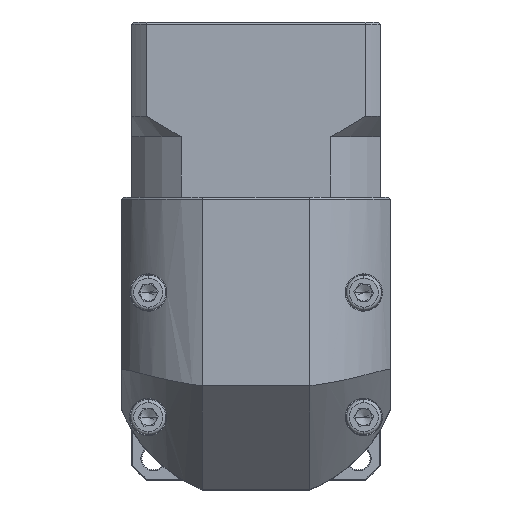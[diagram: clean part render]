
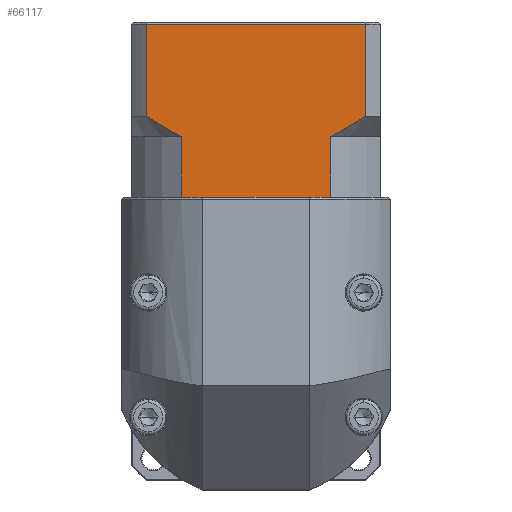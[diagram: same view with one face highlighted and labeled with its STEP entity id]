
A CAD part, top view. The second image highlights one B-rep face of the part: STEP entity #66117.
In plain terms, the highlighted planar face has unit normal (0, 0, 1).
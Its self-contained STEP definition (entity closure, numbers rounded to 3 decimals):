
#869 = PLANE ( 'NONE',  #68390 ) ;
#1030 = CARTESIAN_POINT ( 'NONE',  ( -52.803, 62.514, 82.485 ) ) ;
#2594 = CARTESIAN_POINT ( 'NONE',  ( -45.83, 88.964, 82.485 ) ) ;
#6844 = VERTEX_POINT ( 'NONE', #108643 ) ;
#8548 = B_SPLINE_CURVE_WITH_KNOTS ( 'NONE', 3,
 ( #48030, #56755, #47663, #21805, #30581, #39314 ),
 .UNSPECIFIED., .F., .F.,
 ( 4, 2, 4 ),
 ( 0.052, 0.057, 0.062 ),
 .UNSPECIFIED. ) ;
#8749 = VECTOR ( 'NONE', #44773, 1000. ) ;
#8867 = DIRECTION ( 'NONE',  ( 1., 0., 0. ) ) ;
#9707 = CARTESIAN_POINT ( 'NONE',  ( -47.192, 65.862, 82.485 ) ) ;
#11422 = VECTOR ( 'NONE', #12112, 1000. ) ;
#11756 = DIRECTION ( 'NONE',  ( 0., 0., -1. ) ) ;
#12112 = DIRECTION ( 'NONE',  ( 0., -1., 0. ) ) ;
#12414 = CARTESIAN_POINT ( 'NONE',  ( -102.287, 88.964, 82.485 ) ) ;
#12756 = EDGE_CURVE ( 'NONE', #46889, #20472, #45335, .T. ) ;
#13132 = CARTESIAN_POINT ( 'NONE',  ( -102.287, 47.264, 82.485 ) ) ;
#13189 = EDGE_LOOP ( 'NONE', ( #62023, #28039, #104213, #59118, #18946, #38929, #27675, #76540, #84307, #67186 ) ) ;
#13272 = EDGE_CURVE ( 'NONE', #27603, #69291, #80273, .T. ) ;
#16955 = VECTOR ( 'NONE', #90491, 1000. ) ;
#17314 = CARTESIAN_POINT ( 'NONE',  ( -98.745, 61.764, 82.485 ) ) ;
#18052 = CARTESIAN_POINT ( 'NONE',  ( -54.259, 61.764, 82.485 ) ) ;
#18946 = ORIENTED_EDGE ( 'NONE', *, *, #50042, .F. ) ;
#19033 = DIRECTION ( 'NONE',  ( 0., 1., 0. ) ) ;
#19468 = VECTOR ( 'NONE', #78011, 1000. ) ;
#20472 = VERTEX_POINT ( 'NONE', #61754 ) ;
#21805 = CARTESIAN_POINT ( 'NONE',  ( -93.198, 63.315, 82.485 ) ) ;
#22342 = VERTEX_POINT ( 'NONE', #100213 ) ;
#27324 = LINE ( 'NONE', #40422, #39543 ) ;
#27603 = VERTEX_POINT ( 'NONE', #77654 ) ;
#27675 = ORIENTED_EDGE ( 'NONE', *, *, #84119, .T. ) ;
#28039 = ORIENTED_EDGE ( 'NONE', *, *, #104460, .T. ) ;
#30581 = CARTESIAN_POINT ( 'NONE',  ( -91.767, 62.512, 82.485 ) ) ;
#31312 = DIRECTION ( 'NONE',  ( 1., 0., 0. ) ) ;
#35199 = CARTESIAN_POINT ( 'NONE',  ( -48.572, 64.988, 82.485 ) ) ;
#35426 = CARTESIAN_POINT ( 'NONE',  ( -45.83, 66.764, 82.485 ) ) ;
#35930 = CARTESIAN_POINT ( 'NONE',  ( -45.83, 66.764, 82.485 ) ) ;
#36075 = CARTESIAN_POINT ( 'NONE',  ( -90.315, 61.764, 82.485 ) ) ;
#37669 = CARTESIAN_POINT ( 'NONE',  ( -102.287, 89.464, 82.485 ) ) ;
#38929 = ORIENTED_EDGE ( 'NONE', *, *, #101891, .T. ) ;
#39314 = CARTESIAN_POINT ( 'NONE',  ( -90.315, 61.764, 82.485 ) ) ;
#39417 = DIRECTION ( 'NONE',  ( 1., 0., 0. ) ) ;
#39543 = VECTOR ( 'NONE', #31312, 1000. ) ;
#40422 = CARTESIAN_POINT ( 'NONE',  ( -102.287, 47.264, 82.485 ) ) ;
#42552 = LINE ( 'NONE', #13132, #64271 ) ;
#42584 = VERTEX_POINT ( 'NONE', #35426 ) ;
#44773 = DIRECTION ( 'NONE',  ( 0., -1., 0. ) ) ;
#45335 = LINE ( 'NONE', #17314, #19468 ) ;
#46889 = VERTEX_POINT ( 'NONE', #68018 ) ;
#47663 = CARTESIAN_POINT ( 'NONE',  ( -96.006, 64.991, 82.485 ) ) ;
#47844 = VECTOR ( 'NONE', #8867, 1000. ) ;
#48030 = CARTESIAN_POINT ( 'NONE',  ( -98.745, 66.764, 82.485 ) ) ;
#49718 = VERTEX_POINT ( 'NONE', #2594 ) ;
#50042 = EDGE_CURVE ( 'NONE', #22342, #93451, #66843, .T. ) ;
#52267 = B_SPLINE_CURVE_WITH_KNOTS ( 'NONE', 3,
 ( #18052, #1030, #96520, #35199, #9707, #35930 ),
 .UNSPECIFIED., .F., .F.,
 ( 4, 2, 4 ),
 ( 0.1, 0.104, 0.109 ),
 .UNSPECIFIED. ) ;
#56755 = CARTESIAN_POINT ( 'NONE',  ( -97.385, 65.864, 82.485 ) ) ;
#57696 = LINE ( 'NONE', #64167, #11422 ) ;
#59118 = ORIENTED_EDGE ( 'NONE', *, *, #104915, .T. ) ;
#59431 = EDGE_CURVE ( 'NONE', #6844, #69291, #57696, .T. ) ;
#60899 = CARTESIAN_POINT ( 'NONE',  ( -102.287, 47.264, 82.485 ) ) ;
#61754 = CARTESIAN_POINT ( 'NONE',  ( -98.745, 88.964, 82.485 ) ) ;
#62023 = ORIENTED_EDGE ( 'NONE', *, *, #90116, .F. ) ;
#64167 = CARTESIAN_POINT ( 'NONE',  ( -54.259, 61.764, 82.485 ) ) ;
#64271 = VECTOR ( 'NONE', #39417, 1000. ) ;
#66117 = ADVANCED_FACE ( 'NONE', ( #66576 ), #869, .F. ) ;
#66576 = FACE_OUTER_BOUND ( 'NONE', #13189, .T. ) ;
#66843 = LINE ( 'NONE', #77601, #77706 ) ;
#67186 = ORIENTED_EDGE ( 'NONE', *, *, #93943, .T. ) ;
#68018 = CARTESIAN_POINT ( 'NONE',  ( -98.745, 66.764, 82.485 ) ) ;
#68390 = AXIS2_PLACEMENT_3D ( 'NONE', #37669, #11756, #19033 ) ;
#69291 = VERTEX_POINT ( 'NONE', #81670 ) ;
#76540 = ORIENTED_EDGE ( 'NONE', *, *, #13272, .T. ) ;
#77601 = CARTESIAN_POINT ( 'NONE',  ( -90.315, 61.764, 82.485 ) ) ;
#77654 = CARTESIAN_POINT ( 'NONE',  ( -55.25, 47.264, 82.485 ) ) ;
#77706 = VECTOR ( 'NONE', #87742, 1000. ) ;
#78011 = DIRECTION ( 'NONE',  ( 0., 1., 0. ) ) ;
#79709 = CARTESIAN_POINT ( 'NONE',  ( -89.324, 47.264, 82.485 ) ) ;
#80273 = LINE ( 'NONE', #60899, #47844 ) ;
#80705 = LINE ( 'NONE', #12414, #16955 ) ;
#81670 = CARTESIAN_POINT ( 'NONE',  ( -54.259, 47.264, 82.485 ) ) ;
#83850 = VERTEX_POINT ( 'NONE', #79709 ) ;
#84119 = EDGE_CURVE ( 'NONE', #83850, #27603, #42552, .T. ) ;
#84307 = ORIENTED_EDGE ( 'NONE', *, *, #59431, .F. ) ;
#87742 = DIRECTION ( 'NONE',  ( 0., 1., 0. ) ) ;
#90116 = EDGE_CURVE ( 'NONE', #49718, #42584, #92777, .T. ) ;
#90491 = DIRECTION ( 'NONE',  ( -1., 0., 0. ) ) ;
#92777 = LINE ( 'NONE', #95855, #8749 ) ;
#93451 = VERTEX_POINT ( 'NONE', #36075 ) ;
#93943 = EDGE_CURVE ( 'NONE', #6844, #42584, #52267, .T. ) ;
#95855 = CARTESIAN_POINT ( 'NONE',  ( -45.83, 61.764, 82.485 ) ) ;
#96520 = CARTESIAN_POINT ( 'NONE',  ( -51.377, 63.314, 82.485 ) ) ;
#100213 = CARTESIAN_POINT ( 'NONE',  ( -90.315, 47.264, 82.485 ) ) ;
#101891 = EDGE_CURVE ( 'NONE', #22342, #83850, #27324, .T. ) ;
#104213 = ORIENTED_EDGE ( 'NONE', *, *, #12756, .F. ) ;
#104460 = EDGE_CURVE ( 'NONE', #49718, #20472, #80705, .T. ) ;
#104915 = EDGE_CURVE ( 'NONE', #46889, #93451, #8548, .T. ) ;
#108643 = CARTESIAN_POINT ( 'NONE',  ( -54.259, 61.764, 82.485 ) ) ;
